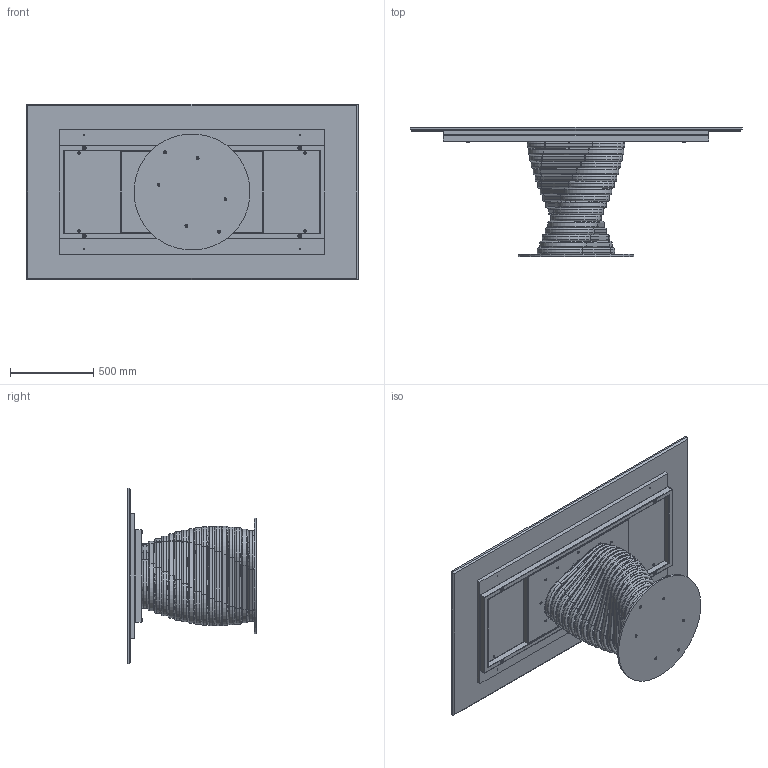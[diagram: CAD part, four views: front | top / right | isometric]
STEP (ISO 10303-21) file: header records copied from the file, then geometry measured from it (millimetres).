
FILE_DESCRIPTION (( 'STEP AP203' ), '1' );
FILE_NAME ('RO21M.STEP', '2024-08-07T13:35:43', ( '' ), ( '' ), 'SwSTEP 2.0', 'SolidWorks 2022', '' );
FILE_SCHEMA (( 'CONFIG_CONTROL_DESIGN' ));
Length unit declared in the file: millimetre
Products named in the file (17): ROB200000-00-PIASTRA BASE_Ø70cm; M2X-00-Piani rettangolari marmo_2000*1060; COLLO TELAIO UNIVERSALE TTAV01 CON FERRAMENTA_MTG TOP LEGNO-MARMO-KING; TTAV01_02-05-VASSOIO IRRIGIDIMENTO TELAIO UNIVERSALE; TTAV01_01-05-TELAIO UNIVERSALE X TAVOLI 180 240cm; RO21M; M8xXXmm_hex_M8X20mm; ROBX00000MED-00-Anello rotolo MEDIO_Default<A macchina>; ROBX00000-00-ROTOLO BASE 17 ANELLI; ROBX00000INF-00-Anello rotolo INFERIORE_Default<A macchina>; M8xXXmm_M8x20mm; TRUXXXXXX-00-NOBILITATO GR CON SUPP TRUCIOLARE SP. 25_TRU00004_1600x720; rondella M8_8X24; ROBX00000SUP-00-Anello rotolo SUPERIORE_Default<A macchina>; M2XMXX-00-Piani rettangolari in marmo_2000x1060; M8xXXmm_M8x55mm; TTAV01-05-TELAIO UNIVERSALE X TAVOLI 180 240cm
Assembly tree (48 placements, depth 4):
  RO21M
    ROB200000-00-PIASTRA BASE_Ø70cm
    ROBX00000-00-ROTOLO BASE 17 ANELLI
      ROBX00000INF-00-Anello rotolo INFERIORE_Default<A macchina>
      ROBX00000MED-00-Anello rotolo MEDIO_Default<A macchina>  x15
      ROBX00000SUP-00-Anello rotolo SUPERIORE_Default<A macchina>
    M8xXXmm_hex_M8X20mm  x6
    COLLO TELAIO UNIVERSALE TTAV01 CON FERRAMENTA_MTG TOP LEGNO-MARMO-KING
      TTAV01-05-TELAIO UNIVERSALE X TAVOLI 180 240cm
        TTAV01_02-05-VASSOIO IRRIGIDIMENTO TELAIO UNIVERSALE
        TTAV01_01-05-TELAIO UNIVERSALE X TAVOLI 180 240cm
      rondella M8_8X24  x4
      M8xXXmm_M8x55mm  x4
    rondella M8_8X24  x4
    M8xXXmm_M8x20mm  x4
    M2XMXX-00-Piani rettangolari in marmo_2000x1060
      M2X-00-Piani rettangolari marmo_2000*1060
      TRUXXXXXX-00-NOBILITATO GR CON SUPP TRUCIOLARE SP. 25_TRU00004_1600x720
Bounding box: 2000 x 777 x 1060 mm (x, y, z)
Volume: 85246479.9 mm3; surface area: 14698181.4 mm2
Topology: 95 solids, 95 shells, 1714 faces, 4082 edges, 2509 vertices
Faces by surface type: plane 668, cylinder 604, torus 244, cone 190, sphere 8
Entity records: 24369 total; most frequent: CARTESIAN_POINT 5347, DIRECTION 3568, ORIENTED_EDGE 3268, EDGE_CURVE 1634, AXIS2_PLACEMENT_3D 1345, VERTEX_POINT 1030, LINE 878, VECTOR 878
